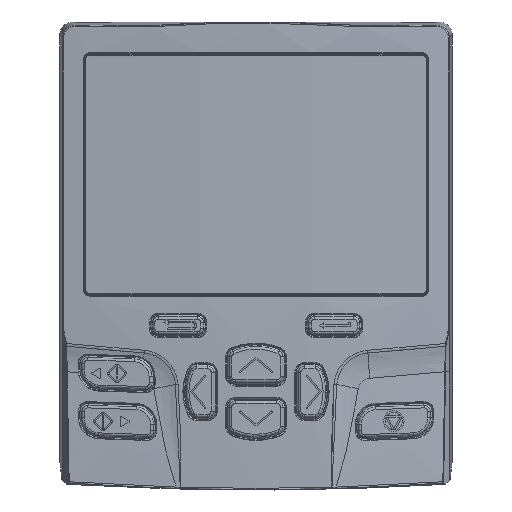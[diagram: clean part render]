
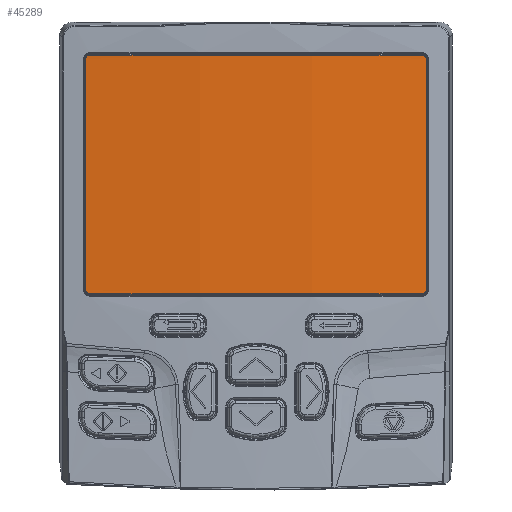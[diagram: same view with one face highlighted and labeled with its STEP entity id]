
A CAD part, top view. The second image highlights one B-rep face of the part: STEP entity #45289.
In plain terms, the highlighted cylindrical face has radius 317 mm (diameter 634 mm), a partial arc.
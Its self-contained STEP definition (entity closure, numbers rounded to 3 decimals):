
#44596=CARTESIAN_POINT('',(0.,89.73,-307.16));
#44597=DIRECTION('',(0.,1.,0.));
#44598=DIRECTION('',(-0.103,0.,0.995));
#44599=AXIS2_PLACEMENT_3D('',#44596,#44597,#44598);
#44601=CARTESIAN_POINT('',(33.374,88.973,8.078));
#44602=CARTESIAN_POINT('',(33.374,89.039,8.078));
#44603=CARTESIAN_POINT('',(33.358,89.166,8.08));
#44604=CARTESIAN_POINT('',(33.281,89.355,8.088));
#44605=CARTESIAN_POINT('',(33.159,89.514,8.101));
#44606=CARTESIAN_POINT('',(32.999,89.637,8.118));
#44607=CARTESIAN_POINT('',(32.808,89.714,8.138));
#44608=CARTESIAN_POINT('',(32.678,89.731,8.151));
#44609=CARTESIAN_POINT('',(32.613,89.73,8.158));
#44611=DIRECTION('',(0.,1.,0.));
#44612=VECTOR('',#44611,45.286);
#44613=CARTESIAN_POINT('',(33.374,43.687,8.078));
#44614=LINE('',#44613,#44612);
#44615=CARTESIAN_POINT('',(32.612,42.93,8.158));
#44616=CARTESIAN_POINT('',(32.678,42.929,8.151));
#44617=CARTESIAN_POINT('',(32.807,42.945,8.138));
#44618=CARTESIAN_POINT('',(32.998,43.022,8.118));
#44619=CARTESIAN_POINT('',(33.157,43.145,8.101));
#44620=CARTESIAN_POINT('',(33.281,43.303,8.088));
#44621=CARTESIAN_POINT('',(33.358,43.493,8.08));
#44622=CARTESIAN_POINT('',(33.374,43.621,8.078));
#44623=CARTESIAN_POINT('',(33.374,43.687,8.078));
#44625=CARTESIAN_POINT('',(0.,42.93,-307.16));
#44626=DIRECTION('',(0.,1.,0.));
#44627=DIRECTION('',(-0.103,0.,0.995));
#44628=AXIS2_PLACEMENT_3D('',#44625,#44626,#44627);
#44630=CARTESIAN_POINT('',(-33.374,43.687,
8.078));
#44631=CARTESIAN_POINT('',(-33.374,43.621,
8.078));
#44632=CARTESIAN_POINT('',(-33.358,43.494,
8.08));
#44633=CARTESIAN_POINT('',(-33.281,43.305,
8.088));
#44634=CARTESIAN_POINT('',(-33.159,43.146,
8.101));
#44635=CARTESIAN_POINT('',(-32.999,43.023,
8.118));
#44636=CARTESIAN_POINT('',(-32.808,42.946,
8.138));
#44637=CARTESIAN_POINT('',(-32.678,42.929,
8.151));
#44638=CARTESIAN_POINT('',(-32.612,42.93,
8.158));
#44640=DIRECTION('',(0.,-1.,0.));
#44641=VECTOR('',#44640,45.286);
#44642=CARTESIAN_POINT('',(-33.374,88.973,
8.078));
#44643=LINE('',#44642,#44641);
#44644=CARTESIAN_POINT('',(-32.613,89.73,
8.158));
#44645=CARTESIAN_POINT('',(-32.678,89.731,
8.151));
#44646=CARTESIAN_POINT('',(-32.807,89.715,
8.138));
#44647=CARTESIAN_POINT('',(-32.998,89.638,
8.118));
#44648=CARTESIAN_POINT('',(-33.157,89.515,
8.101));
#44649=CARTESIAN_POINT('',(-33.281,89.357,
8.088));
#44650=CARTESIAN_POINT('',(-33.358,89.167,
8.08));
#44651=CARTESIAN_POINT('',(-33.374,89.039,
8.078));
#44652=CARTESIAN_POINT('',(-33.374,88.973,
8.078));
#45192=CARTESIAN_POINT('',(32.614,89.73,8.158));
#45193=CARTESIAN_POINT('',(-32.614,89.73,
8.158));
#45194=VERTEX_POINT('',#45192);
#45195=VERTEX_POINT('',#45193);
#45198=VERTEX_POINT('',#44652);
#45200=CARTESIAN_POINT('',(-33.374,43.687,
8.078));
#45201=VERTEX_POINT('',#45200);
#45204=VERTEX_POINT('',#44638);
#45206=CARTESIAN_POINT('',(32.614,42.93,8.158));
#45207=VERTEX_POINT('',#45206);
#45209=VERTEX_POINT('',#44623);
#45211=CARTESIAN_POINT('',(33.374,88.973,8.078));
#45212=VERTEX_POINT('',#45211);
#45266=CARTESIAN_POINT('',(0.,89.98,-307.16));
#45267=DIRECTION('',(0.,-1.,0.));
#45268=DIRECTION('',(-1.,0.,0.));
#45269=AXIS2_PLACEMENT_3D('',#45266,#45267,#45268);
#45270=CYLINDRICAL_SURFACE('',#45269,317.);
#45272=ORIENTED_EDGE('',*,*,#45271,.T.);
#45274=ORIENTED_EDGE('',*,*,#45273,.F.);
#45276=ORIENTED_EDGE('',*,*,#45275,.F.);
#45278=ORIENTED_EDGE('',*,*,#45277,.F.);
#45280=ORIENTED_EDGE('',*,*,#45279,.F.);
#45282=ORIENTED_EDGE('',*,*,#45281,.F.);
#45284=ORIENTED_EDGE('',*,*,#45283,.F.);
#45286=ORIENTED_EDGE('',*,*,#45285,.F.);
#45287=EDGE_LOOP('',(#45272,#45274,#45276,#45278,#45280,#45282,#45284,#45286));
#45288=FACE_OUTER_BOUND('',#45287,.F.);
#44600=CIRCLE('',#44599,317.);
#44610=B_SPLINE_CURVE_WITH_KNOTS('',3,(#44601,#44602,#44603,#44604,#44605,
#44606,#44607,#44608,#44609),.UNSPECIFIED.,.F.,.F.,(4,1,1,1,1,1,4),(0.,
0.167,0.333,0.5,0.667,0.833,
1.),.UNSPECIFIED.);
#44624=B_SPLINE_CURVE_WITH_KNOTS('',3,(#44615,#44616,#44617,#44618,#44619,
#44620,#44621,#44622,#44623),.UNSPECIFIED.,.F.,.F.,(4,1,1,1,1,1,4),(0.,
0.167,0.333,0.5,0.667,0.833,
1.),.UNSPECIFIED.);
#44629=CIRCLE('',#44628,317.);
#44639=B_SPLINE_CURVE_WITH_KNOTS('',3,(#44630,#44631,#44632,#44633,#44634,
#44635,#44636,#44637,#44638),.UNSPECIFIED.,.F.,.F.,(4,1,1,1,1,1,4),(0.,
0.167,0.333,0.5,0.667,0.833,
1.),.UNSPECIFIED.);
#44653=B_SPLINE_CURVE_WITH_KNOTS('',3,(#44644,#44645,#44646,#44647,#44648,
#44649,#44650,#44651,#44652),.UNSPECIFIED.,.F.,.F.,(4,1,1,1,1,1,4),(0.,
0.167,0.333,0.5,0.667,0.833,
1.),.UNSPECIFIED.);
#45271=EDGE_CURVE('',#45195,#45194,#44600,.T.);
#45273=EDGE_CURVE('',#45212,#45194,#44610,.T.);
#45275=EDGE_CURVE('',#45209,#45212,#44614,.T.);
#45277=EDGE_CURVE('',#45207,#45209,#44624,.T.);
#45279=EDGE_CURVE('',#45204,#45207,#44629,.T.);
#45281=EDGE_CURVE('',#45201,#45204,#44639,.T.);
#45283=EDGE_CURVE('',#45198,#45201,#44643,.T.);
#45285=EDGE_CURVE('',#45195,#45198,#44653,.T.);
#45289=ADVANCED_FACE('',(#45288),#45270,.T.);
